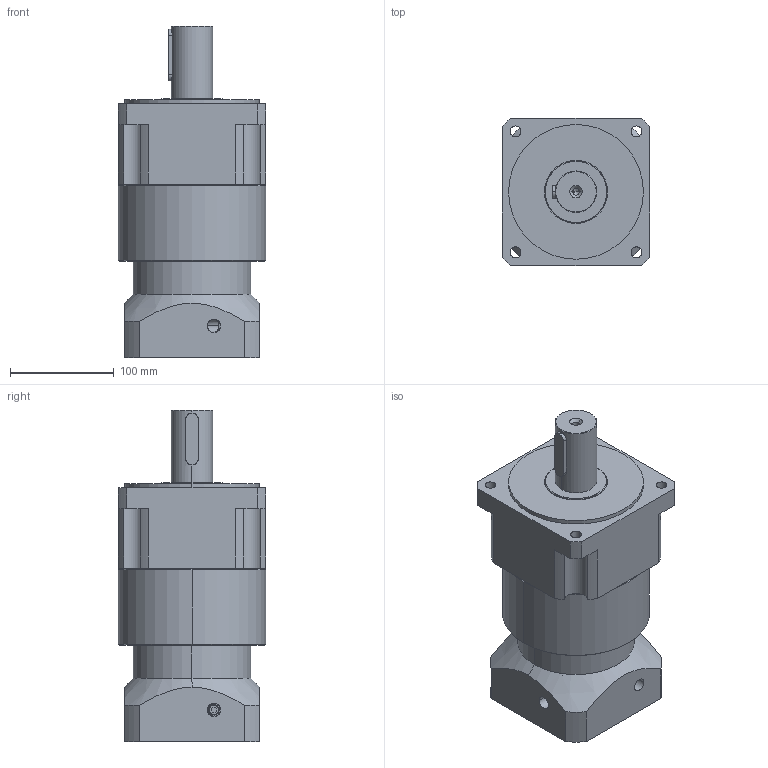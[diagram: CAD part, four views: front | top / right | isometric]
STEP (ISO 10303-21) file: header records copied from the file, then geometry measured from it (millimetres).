
FILE_DESCRIPTION (( 'STEP AP203' ), '1' );
FILE_NAME ('GNP150L2-24-110-145-M8(20130409).STEP', '2013-04-09T05:07:09', ( 'user' ), ( 'SYNNEX' ), 'SwSTEP 2.0', 'SolidWorks 2008', '' );
FILE_SCHEMA (( 'CONFIG_CONTROL_DESIGN' ));
Length unit declared in the file: millimetre
Products named in the file (1): GNP150L2-24-110-145-M8(20130409)
Bounding box: 142 x 142 x 320.2 mm (x, y, z)
Volume: 2594074.8 mm3; surface area: 418126 mm2
Topology: 14 solids, 14 shells, 1216 faces, 2904 edges, 1712 vertices
Faces by surface type: cone 502, cylinder 403, plane 205, torus 88, sphere 18
Entity records: 36349 total; most frequent: CARTESIAN_POINT 7819, DIRECTION 6496, ORIENTED_EDGE 5614, EDGE_CURVE 2807, AXIS2_PLACEMENT_3D 2698, VERTEX_POINT 1685, CIRCLE 1481, EDGE_LOOP 1396
